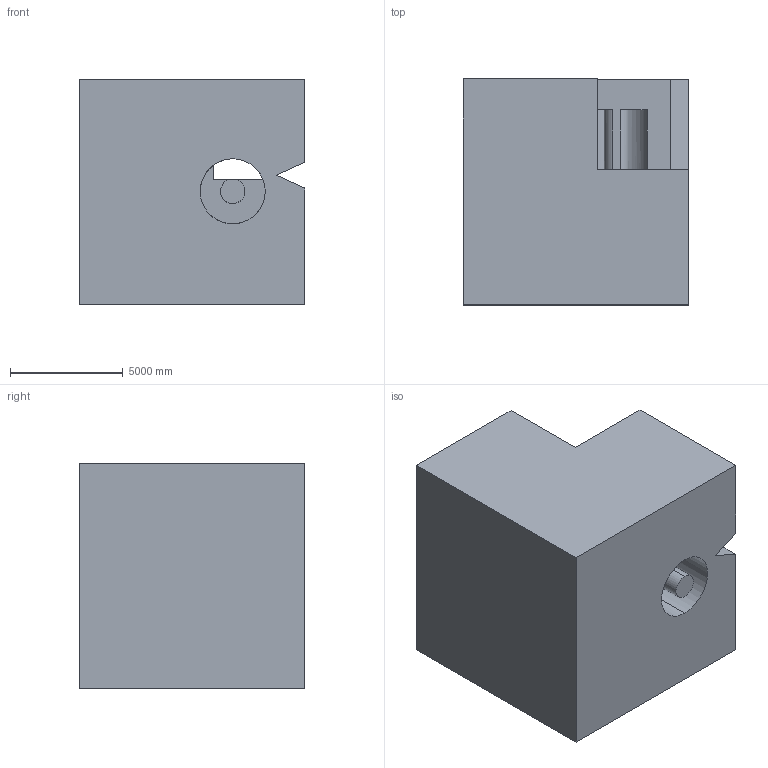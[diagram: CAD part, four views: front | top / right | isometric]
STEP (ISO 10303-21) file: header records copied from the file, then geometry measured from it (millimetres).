
FILE_DESCRIPTION (( 'STEP AP203' ), '1' );
FILE_NAME ('1281.STEP', '2022-08-18T13:32:43', ( 'user' ), ( '' ), 'SwSTEP 2.0', 'SolidWorks 2021', '' );
FILE_SCHEMA (( 'CONFIG_CONTROL_DESIGN' ));
Length unit declared in the file: centimetre
Products named in the file (1): 1281
Bounding box: 10000 x 10000 x 10000 mm (x, y, z)
Volume: 878408685052.1 mm3; surface area: 697225784.9 mm2
Topology: 1 solids, 1 shells, 19 faces, 54 edges, 36 vertices
Faces by surface type: plane 15, cylinder 4
Entity records: 701 total; most frequent: CARTESIAN_POINT 110, ORIENTED_EDGE 108, DIRECTION 106, EDGE_CURVE 54, VECTOR 42, LINE 42, VERTEX_POINT 36, AXIS2_PLACEMENT_3D 32
